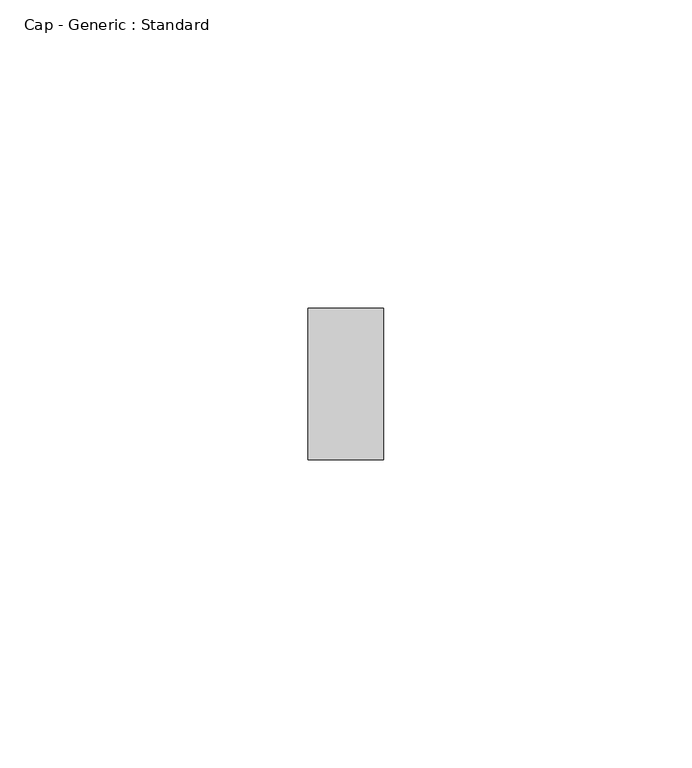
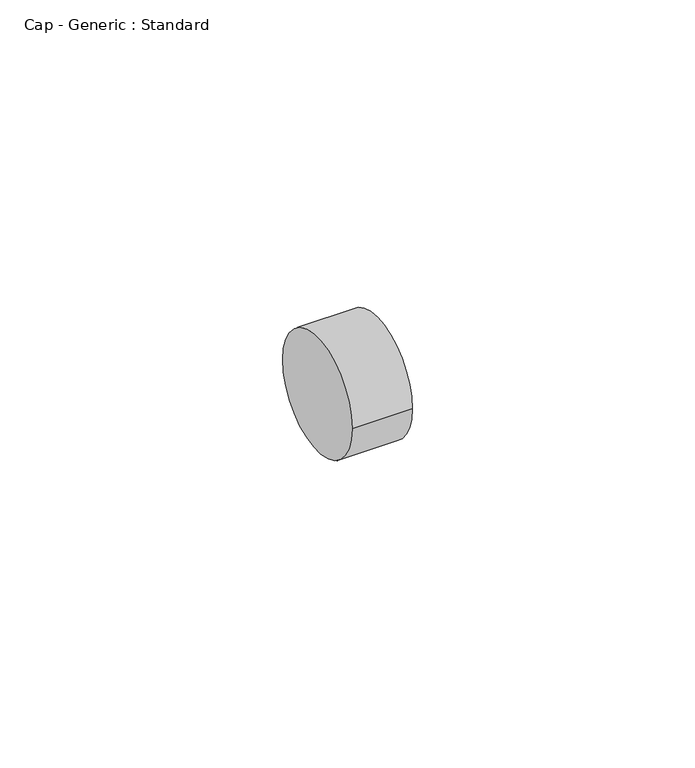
"""IFC4 building model written with IfcOpenShell, lengths in millimetres: pipe fitting geometry, Cap - Generic : Standard."""

from ifc_helpers import new_model, si_unit, point, frame, origin, origin_2d, place, context, project, spatial, circle_curve, trimmed, segment, composite_curve, outline, extrude, source, transform, mapped, element, save


def cap_generic_standard_712620ad(model_context):
    return source(origin(), model_context, "Body", "SweptSolid", [
        extrude(outline(composite_curve([segment(trimmed(circle_curve(origin_2d(), 12.303125), [point((-12.303125, 0.0))], [point((12.303125, 0.0))], False, "CARTESIAN"), True, "CONTINUOUS"), segment(trimmed(circle_curve(origin_2d(), 12.303125), [point((12.303125, 0.0))], [point((-12.303125, 0.0))], False, "CARTESIAN"), True, "CONTINUOUS")], self_intersect=False)), frame((0.0, 0.0, 0.0), z_axis=(1.0, 0.0, 0.0), x_axis=(0.0, 1.0, 0.0)), (0.0, 0.0, 1.0), 12.303125),
    ])


if __name__ == "__main__":
    model = new_model("IFC4")
    model_context = context("Model", 3, world=origin())
    ifc_project = project(units=[si_unit("LENGTHUNIT", "METRE", prefix="MILLI")], contexts=[model_context])
    site = spatial("IfcSite", under=ifc_project)
    building = spatial("IfcBuilding", under=site)
    placement = place(None, origin())
    cap_generic_standard_shape = cap_generic_standard_712620ad(model_context)
    element("IfcPipeFitting", 1, ObjectType="Cap - Generic : Standard", at=placement, inside=building, context=model_context, shape_type="MappedRepresentation", body=[
        mapped(cap_generic_standard_shape, transform((0.0, 0.0, 0.0), x_axis=(1.0, 0.0, 0.0), y_axis=(0.0, 1.0, 0.0), z_axis=(0.0, 0.0, 1.0))),
    ])
    save(model, "model.ifc")
